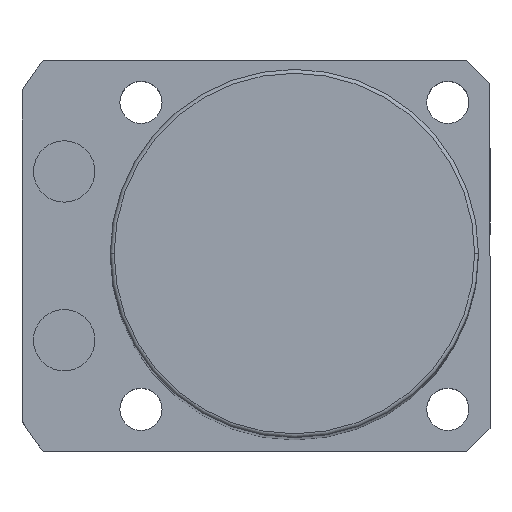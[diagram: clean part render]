
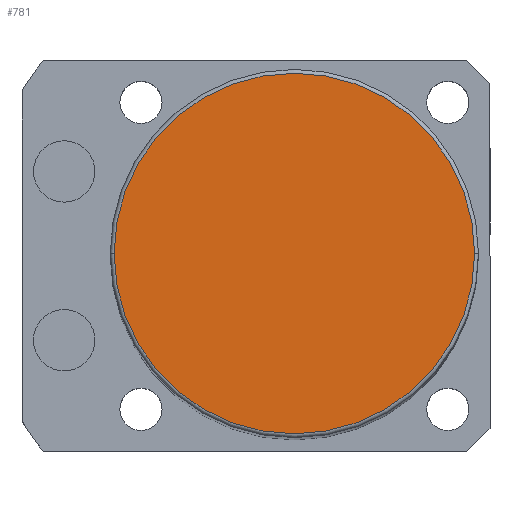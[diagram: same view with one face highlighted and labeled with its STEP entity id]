
A CAD part, top view. The second image highlights one B-rep face of the part: STEP entity #781.
In plain terms, the highlighted planar face has unit normal (0, 0, 1).
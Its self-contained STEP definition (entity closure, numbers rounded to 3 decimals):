
#61 = CARTESIAN_POINT ( 'NONE',  ( -23.5, 0., 186. ) ) ;
#99 = CARTESIAN_POINT ( 'NONE',  ( 0., 0., 186. ) ) ;
#148 = ORIENTED_EDGE ( 'NONE', *, *, #2053, .T. ) ;
#256 = DIRECTION ( 'NONE',  ( 1., 0., 0. ) ) ;
#272 = DIRECTION ( 'NONE',  ( 1., 0., 0. ) ) ;
#276 = DIRECTION ( 'NONE',  ( 0., 0., 1. ) ) ;
#399 = CIRCLE ( 'NONE', #2330, 23.5 ) ;
#439 = AXIS2_PLACEMENT_3D ( 'NONE', #890, #1492, #1475 ) ;
#450 = VERTEX_POINT ( 'NONE', #1336 ) ;
#452 = EDGE_LOOP ( 'NONE', ( #148, #1335 ) ) ;
#642 = EDGE_CURVE ( 'NONE', #2080, #450, #399, .T. ) ;
#781 = ADVANCED_FACE ( 'NONE', ( #1372 ), #1869, .T. ) ;
#890 = CARTESIAN_POINT ( 'NONE',  ( 0., 0., 186. ) ) ;
#1335 = ORIENTED_EDGE ( 'NONE', *, *, #642, .T. ) ;
#1336 = CARTESIAN_POINT ( 'NONE',  ( 23.5, 0., 186. ) ) ;
#1372 = FACE_OUTER_BOUND ( 'NONE', #452, .T. ) ;
#1430 = CARTESIAN_POINT ( 'NONE',  ( 0., 0., 186. ) ) ;
#1475 = DIRECTION ( 'NONE',  ( 1., 0., 0. ) ) ;
#1492 = DIRECTION ( 'NONE',  ( 0., 0., 1. ) ) ;
#1648 = AXIS2_PLACEMENT_3D ( 'NONE', #99, #1858, #272 ) ;
#1858 = DIRECTION ( 'NONE',  ( 0., 0., 1. ) ) ;
#1869 = PLANE ( 'NONE',  #439 ) ;
#1948 = CIRCLE ( 'NONE', #1648, 23.5 ) ;
#2053 = EDGE_CURVE ( 'NONE', #450, #2080, #1948, .T. ) ;
#2080 = VERTEX_POINT ( 'NONE', #61 ) ;
#2330 = AXIS2_PLACEMENT_3D ( 'NONE', #1430, #276, #256 ) ;
